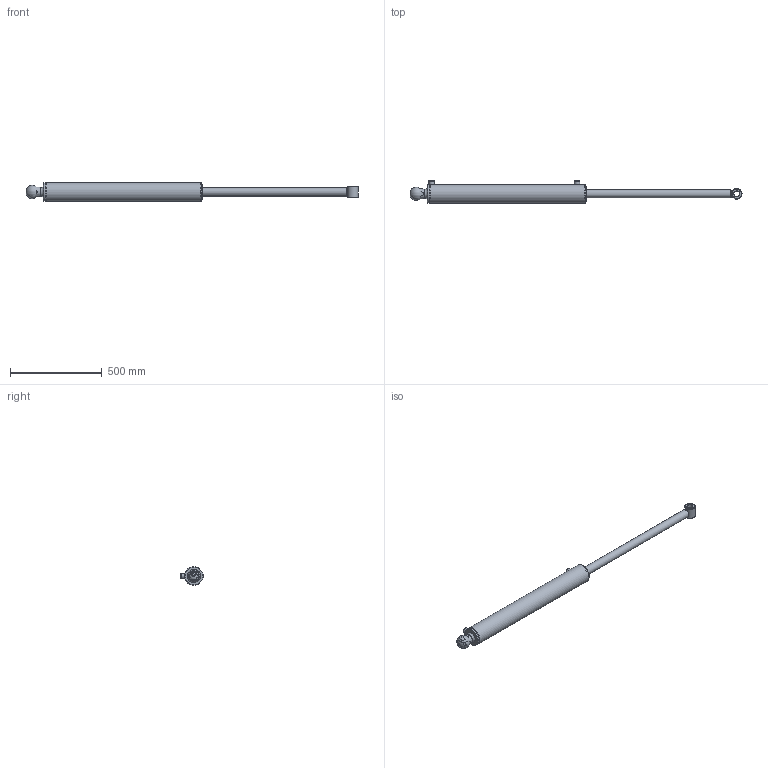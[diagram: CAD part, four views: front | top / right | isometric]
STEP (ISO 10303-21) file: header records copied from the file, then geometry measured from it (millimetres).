
FILE_DESCRIPTION(/* description */ ('Alibre Inc.'),/* implementation_level */ '2;1');
FILE_NAME(/* name */ 'export0',/* time_stamp */ '2016-08-16T10:05:42+12:00',/* author */ (''),/* organization */ (''),/* preprocessor_version */ 'ST-DEVELOPER v14',/* originating_system */ 'Alibre',/* authorisation */ '');
FILE_SCHEMA (('AUTOMOTIVE_DESIGN'));
Length unit declared in the file: centimetre
Bounding box: 1808.9 x 121.6 x 101.6 mm (x, y, z)
Volume: 3946640.5 mm3; surface area: 841224.4 mm2
Topology: 12 solids, 12 shells, 148 faces, 306 edges, 191 vertices
Faces by surface type: cylinder 57, plane 48, cone 26, torus 16, bspline 1
Full cylindrical faces by diameter (mm): 7 x1, 8.3 x2, 8.4 x1, 12.7 x2, 19.1 x2, 29.35 x1, 29.972 x1, 30 x2, 31.75 x1, 31.8 x1, 31.801 x1, 44.45 x2, 44.53 x2, 50.8 x1, 53.25 x2, 53.97 x2, 57.15 x1, 73.03 x1, 81.9 x1, 83.06 x1, 84.3 x2, 85.27 x2, 85.5 x1, 87.53 x2, 88.75 x1, 88.79 x2, 88.9 x2, 92.1 x1, 101.6 x3
Entity records: 4071 total; most frequent: CARTESIAN_POINT 1180, DIRECTION 562, ORIENTED_EDGE 372, AXIS2_PLACEMENT_3D 297, FACE_BOUND 270, EDGE_LOOP 267, EDGE_CURVE 186, VERTEX_POINT 166
